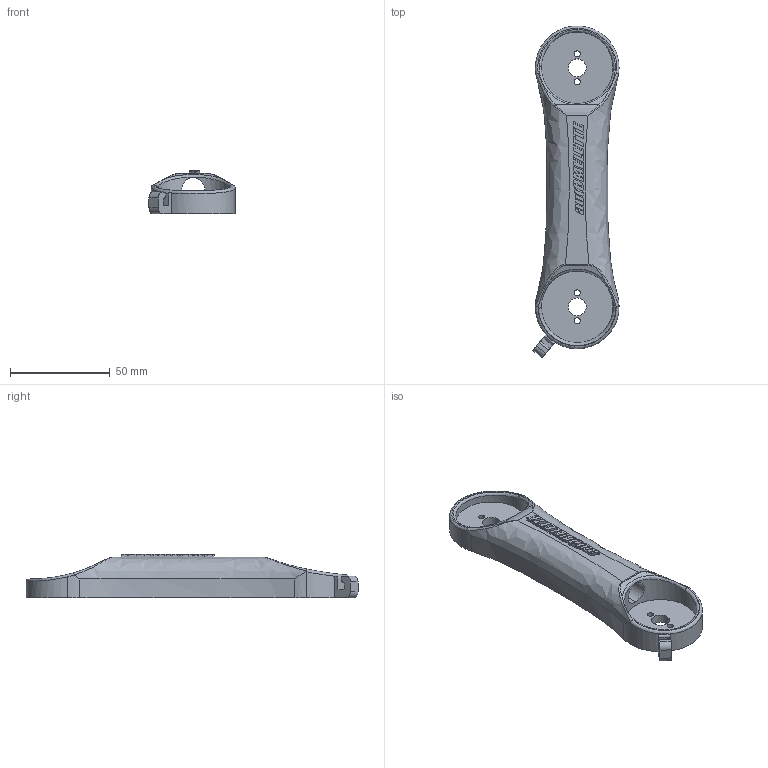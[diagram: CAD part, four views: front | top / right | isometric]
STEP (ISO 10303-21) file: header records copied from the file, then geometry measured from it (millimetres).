
FILE_DESCRIPTION (( 'STEP AP203' ), '1' );
FILE_NAME ('Arm 01.STEP', '2021-09-16T07:08:59', ( '' ), ( '' ), 'SwSTEP 2.0', 'SolidWorks 2019', '' );
FILE_SCHEMA (( 'CONFIG_CONTROL_DESIGN' ));
Length unit declared in the file: millimetre
Products named in the file (1): Arm 01
Bounding box: 43.22 x 166.68 x 22 mm (x, y, z)
Volume: 59902.9 mm3; surface area: 21808 mm2
Topology: 2 solids, 2 shells, 210 faces, 575 edges, 380 vertices
Faces by surface type: plane 131, bspline 45, cylinder 34
Entity records: 11082 total; most frequent: CARTESIAN_POINT 5975, ORIENTED_EDGE 1146, DIRECTION 848, EDGE_CURVE 573, VECTOR 400, LINE 400, VERTEX_POINT 380, EDGE_LOOP 237
